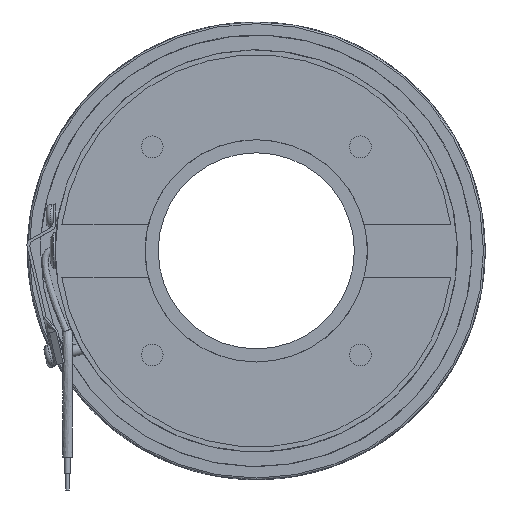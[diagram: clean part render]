
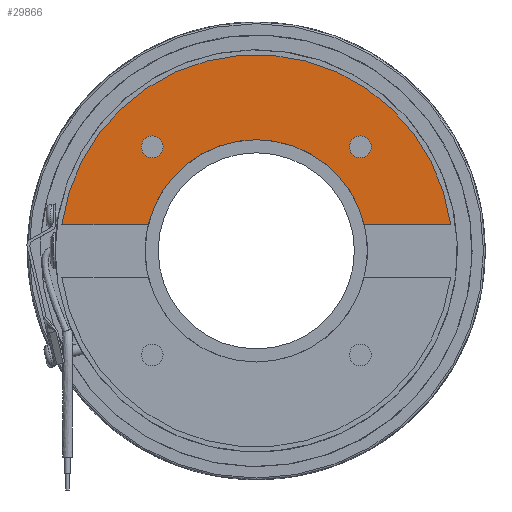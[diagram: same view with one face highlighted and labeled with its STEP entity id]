
A CAD part, left-side view. The second image highlights one B-rep face of the part: STEP entity #29866.
In plain terms, the highlighted planar face has unit normal (-1, 0, 0).
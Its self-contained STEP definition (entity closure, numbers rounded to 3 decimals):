
#1014=LINE('',#51002,#2726);
#1016=LINE('',#51008,#2728);
#2726=VECTOR('',#39950,26.419);
#2728=VECTOR('',#39954,26.419);
#5493=FACE_BOUND('',#7936,.T.);
#5494=FACE_BOUND('',#7937,.T.);
#6335=FACE_OUTER_BOUND('',#7935,.T.);
#7935=EDGE_LOOP('',(#21675,#21676,#21677,#21678));
#7936=EDGE_LOOP('',(#21679));
#7937=EDGE_LOOP('',(#21680));
#9202=CIRCLE('',#32738,34.);
#9204=CIRCLE('',#32741,60.);
#9206=CIRCLE('',#32745,3.324);
#9207=CIRCLE('',#32746,3.324);
#11178=VERTEX_POINT('',#50996);
#11180=VERTEX_POINT('',#51000);
#11181=VERTEX_POINT('',#51004);
#11183=VERTEX_POINT('',#51007);
#11187=VERTEX_POINT('',#51029);
#11188=VERTEX_POINT('',#51031);
#14927=EDGE_CURVE('',#11178,#11180,#1014,.T.);
#14929=EDGE_CURVE('',#11183,#11181,#1016,.T.);
#14938=EDGE_CURVE('',#11180,#11183,#9202,.T.);
#14940=EDGE_CURVE('',#11178,#11181,#9204,.T.);
#14942=EDGE_CURVE('',#11187,#11187,#9206,.T.);
#14943=EDGE_CURVE('',#11188,#11188,#9207,.T.);
#21675=ORIENTED_EDGE('',*,*,#14929,.T.);
#21676=ORIENTED_EDGE('',*,*,#14940,.F.);
#21677=ORIENTED_EDGE('',*,*,#14927,.T.);
#21678=ORIENTED_EDGE('',*,*,#14938,.T.);
#21679=ORIENTED_EDGE('',*,*,#14942,.T.);
#21680=ORIENTED_EDGE('',*,*,#14943,.T.);
#26807=PLANE('',#32744);
#29866=ADVANCED_FACE('',(#6335,#5493,#5494),#26807,.T.);
#32738=AXIS2_PLACEMENT_3D('',#51022,#39973,#39974);
#32741=AXIS2_PLACEMENT_3D('',#51025,#39979,#39980);
#32744=AXIS2_PLACEMENT_3D('',#51028,#39985,#39986);
#32745=AXIS2_PLACEMENT_3D('',#51030,#39987,#39988);
#32746=AXIS2_PLACEMENT_3D('',#51032,#39989,#39990);
#39950=DIRECTION('',(0.,-1.,0.));
#39954=DIRECTION('',(0.,-1.,0.));
#39973=DIRECTION('center_axis',(1.,0.,0.));
#39974=DIRECTION('ref_axis',(0.,0.,-1.));
#39979=DIRECTION('center_axis',(1.,0.,0.));
#39980=DIRECTION('ref_axis',(0.,0.,-1.));
#39985=DIRECTION('center_axis',(-1.,0.,0.));
#39986=DIRECTION('ref_axis',(0.,0.,1.));
#39987=DIRECTION('center_axis',(1.,0.,0.));
#39988=DIRECTION('ref_axis',(0.,0.,1.));
#39989=DIRECTION('center_axis',(1.,0.,0.));
#39990=DIRECTION('ref_axis',(0.,0.,1.));
#50996=CARTESIAN_POINT('',(-16.5,59.464,8.));
#51000=CARTESIAN_POINT('',(-16.5,33.045,8.));
#51002=CARTESIAN_POINT('',(-16.5,70.,8.));
#51004=CARTESIAN_POINT('',(-16.5,-59.464,8.));
#51007=CARTESIAN_POINT('',(-16.5,-33.045,8.));
#51008=CARTESIAN_POINT('',(-16.5,70.,8.));
#51022=CARTESIAN_POINT('Origin',(-16.5,0.,0.));
#51025=CARTESIAN_POINT('Origin',(-16.5,0.,0.));
#51028=CARTESIAN_POINT('Origin',(-16.5,60.,0.));
#51029=CARTESIAN_POINT('',(-16.5,-31.82,35.143));
#51030=CARTESIAN_POINT('Origin',(-16.5,-31.82,31.82));
#51031=CARTESIAN_POINT('',(-16.5,31.82,35.143));
#51032=CARTESIAN_POINT('Origin',(-16.5,31.82,31.82));
